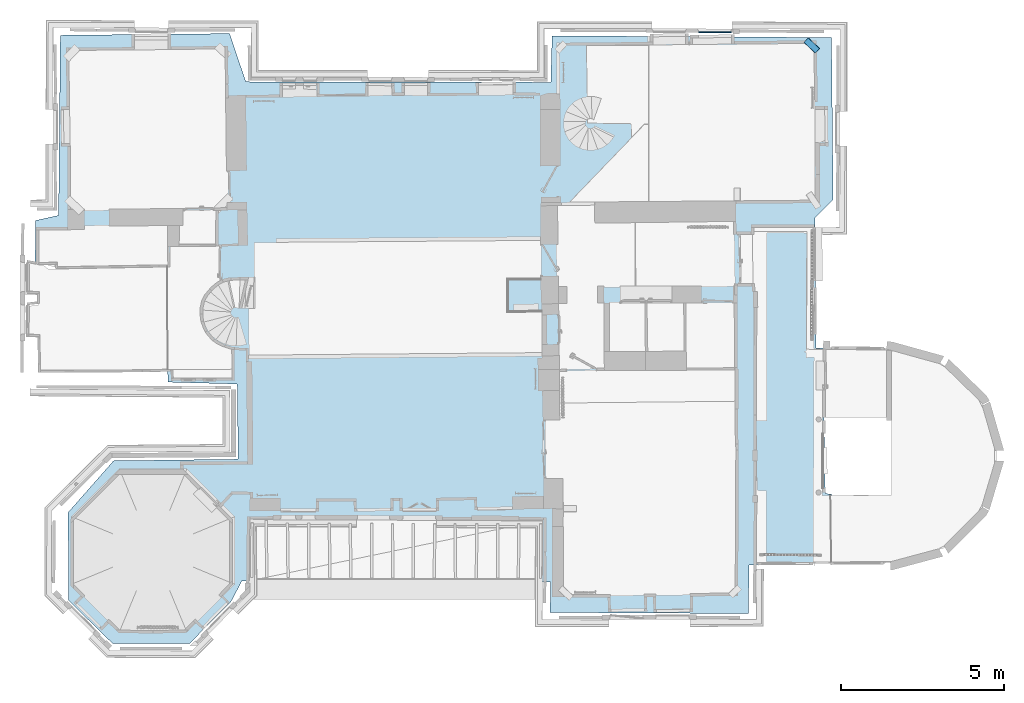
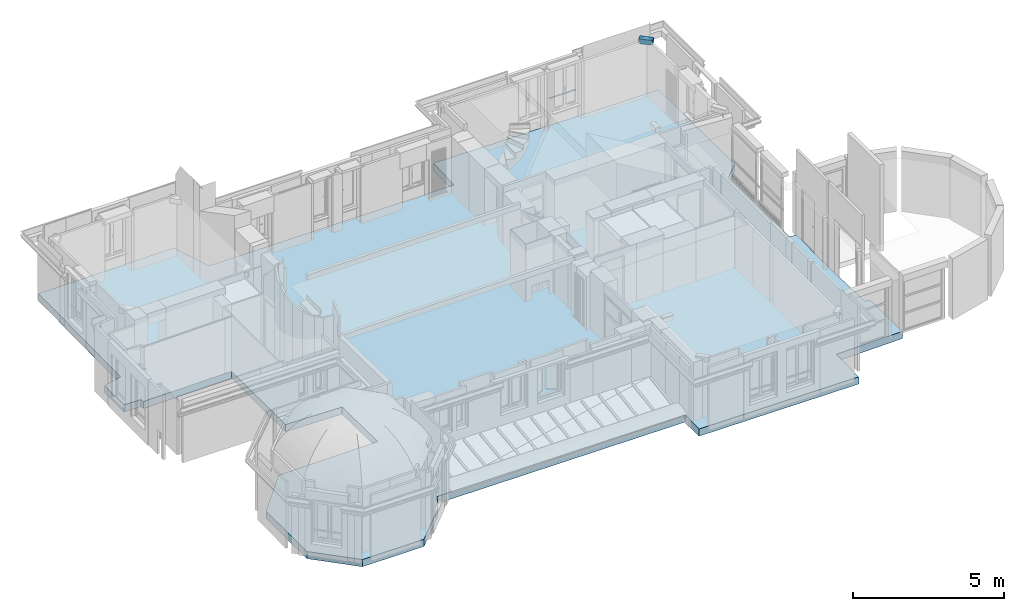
# One storey, part 2 of 72: 2 beams, 1 slab.
"""IFC2X3 building model written with IfcOpenShell, lengths in centimetres."""

from ifc_helpers import new_model, entity, si_unit, converted_unit, direction, frame, origin, origin_with_axes, origin_2d_with_axis, place, context, subcontext, project, spatial, polyline, rounded_rectangle, circle, outline, extrude, source, transform, mapped, material, layer, layer_set, layer_usage, type_object, element, save


model = new_model("IFC2X3")

# Units and contexts
model_context = context("Model", 3, precision=0.0001, world=origin(), true_north=direction((0.225632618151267, 0.974212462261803, 0.0)))
body_context = subcontext(model_context, "Body", "Model", "MODEL_VIEW")
ifc_project = project(units=[si_unit("LENGTHUNIT", "METRE", prefix="CENTI"), si_unit("AREAUNIT", "SQUARE_METRE", prefix="CENTI"), si_unit("VOLUMEUNIT", "CUBIC_METRE", prefix="CENTI"), converted_unit("PLANEANGLEUNIT", "DEGREE", entity("IfcRatioMeasure", 0.0174532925), si_unit("PLANEANGLEUNIT", "RADIAN"), dimensions=[0, 0, 0, 0, 0, 0, 0])], contexts=[model_context])

# Site, building, storey
site_placement = place(None, origin_with_axes())
site = spatial("IfcSite", under=ifc_project, at=site_placement, Name="Default Site", CompositionType="ELEMENT")
building_placement = place(site_placement, origin_with_axes())
building = spatial("IfcBuilding", under=site, at=building_placement, Name="Default Building", CompositionType="ELEMENT")
storey_placement = place(building_placement, frame((0.0, 0.0, 853.910374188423), z_axis=(0.0, 0.0, 1.0), x_axis=(1.0, 0.0, 0.0)))
storey = spatial("IfcBuildingStorey", under=building, at=storey_placement, Name="Niveau 2", CompositionType="ELEMENT", Elevation=853.910374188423)

# Beams
ifc_material_1 = material(Name="Aluminium mat")
beam_type_1 = type_object("IfcBeamType", Name="RND 35", PredefinedType="NOTDEFINED", material=ifc_material_1)
shared_shape_1 = source(origin_with_axes(), body_context, "Body", "SweptSolid", [
    extrude(circle(Radius=1.75, at=origin_2d_with_axis()), origin_with_axes(), (0.0, 0.0, 1.0), 100.0),
])
beam_1_placement = place(storey_placement, frame((817.714279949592, 747.778437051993, 102.0), z_axis=(0.999996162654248, -0.00277032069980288, -9.62964972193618e-35), x_axis=(0.00277032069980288, 0.999996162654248, -2.44929359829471e-16)))
element("IfcBeam", 1, at=beam_1_placement, inside=storey, type_object=beam_type_1, material=ifc_material_1, Name="Poutre en Acier 1548322", ObjectType="beam", context=body_context, shape_type="MappedRepresentation", body=[
    mapped(shared_shape_1, transform((1.74999999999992, -1.75000000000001, 1.77635683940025e-13), x_axis=(1.0, -4.93038065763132e-32, 2.35858394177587e-50), y_axis=(0.0, 1.0, 0.0), z_axis=(-2.35858394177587e-50, -9.71711916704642e-35, -1.0), scale=1.0, scale2=1.0, scale3=0.995478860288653, uniform=False)),
])
ifc_material_2 = material(Name="Eyong")
beam_type_2 = type_object("IfcBeamType", Name="200,00x200,00x10,00", PredefinedType="NOTDEFINED", material=ifc_material_2)
shared_shape_2 = source(origin_with_axes(), body_context, "Body", "SweptSolid", [
    extrude(rounded_rectangle(XDim=20.0, YDim=20.0, RoundingRadius=1.0, at=origin_2d_with_axis()), origin_with_axes(), (0.0, 0.0, 1.0), 100.0),
])
beam_2_placement = place(storey_placement, frame((1075.46891362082, 686.065821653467, 247.0), z_axis=(0.727890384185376, -0.685693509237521, 0.0), x_axis=(0.685693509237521, 0.727890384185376, 0.0)))
element("IfcBeam", 2, at=beam_2_placement, inside=storey, type_object=beam_type_2, material=ifc_material_2, Name="Poutre 1740508", ObjectType="beam", context=body_context, shape_type="MappedRepresentation", body=[
    mapped(shared_shape_2, transform((8.99999999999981, -9.99999999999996, -8.88178419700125e-14), x_axis=(1.0, 0.0, 0.0), y_axis=(0.0, 1.0, 0.0), z_axis=(-5.87144854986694e-17, 0.0, -1.0), scale=1.0, scale2=1.0, scale3=0.472721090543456, uniform=False)),
])

# Slab
ifc_material_3 = material(Name="Carreaux en céramique")
ifc_layer_1 = layer(ifc_material_3, 1.5)
ifc_material_4 = material(Name="Chape ordinaire")
ifc_layer_2 = layer(ifc_material_4, 4.0)
ifc_material_5 = material(Name="Dalle plane terre-cuite-ciment isolée")
ifc_layer_3 = layer(ifc_material_5, 22.5)
ifc_material_6 = material(Name="Enduit intérieur")
ifc_layer_4 = layer(ifc_material_6, 1.0)
ifc_layer_set = layer_set([ifc_layer_1, ifc_layer_2, ifc_layer_3, ifc_layer_4], Name="Plancher en brique-ciment")
ifc_layer_usage = layer_usage(ifc_layer_set, "AXIS3", "POSITIVE", 0.0)
slab_type = type_object("IfcSlabType", Name="Plancher en brique-ciment 290", PredefinedType="NOTDEFINED", material=ifc_layer_set)
slab_placement = place(storey_placement, frame((1102.76154637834, -350.221810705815, -26.4999999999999), z_axis=(0.0, 0.0, 1.0), x_axis=(1.0, 0.0, 0.0)))
element("IfcSlab", 3, at=slab_placement, inside=storey, type_object=slab_type, material=ifc_layer_usage, Name="Enveloppe horizontale 567348", PredefinedType="NOTDEFINED", context=body_context, shape_type="SweptSolid", body=[
    extrude(outline(polyline([(-2350.12534748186, 378.009535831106), (-2352.18559349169, 391.717603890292), (-2416.85597360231, 393.177391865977), (-2415.89185834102, 522.821830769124), (-2345.24474358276, 538.702643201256), (-2339.78833215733, 1090.22247257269), (-1821.36867048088, 1095.48738005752), (-1771.71020057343, 947.907636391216), (-837.760775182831, 946.254613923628), (-833.561546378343, 1088.66181070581), (22.207545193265, 1083.32357701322), (27.4153752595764, 587.140719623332), (-29.1239668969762, 530.266667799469), (-25.6615463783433, 132.001810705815), (-0.142626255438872, 131.619113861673), (-2.41966940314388, -20.2182558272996), (3.37857354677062, -313.264274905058), (22.0649860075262, -315.319105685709), (24.9185401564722, -526.233311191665), (-230.903337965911, -531.730482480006), (-231.720084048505, -680.949311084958), (-839.413770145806, -677.623112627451), (-839.157469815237, -630.797255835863), (-838.901169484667, -583.971399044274), (-1783.658735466, -581.090518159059), (-1817.52182837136, -645.427458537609), (-1944.50154637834, -773.138189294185), (-2179.52154637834, -772.778189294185), (-2315.16419378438, -640.387793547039), (-2315.64995374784, -370.867548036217), (-2176.60154637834, -212.908189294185), (-1795.11154637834, -208.148189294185), (-1797.98449288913, 22.1039882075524), (-2010.69129298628, 27.9118623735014), (-2011.56982141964, 382.879463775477), (-2350.12534748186, 378.009535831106)])), origin_with_axes(), (0.0, 0.0, 1.0), 29.0),
])

save(model, "model.ifc")
